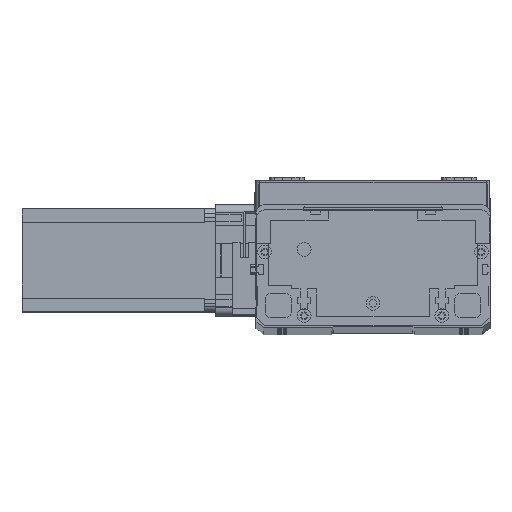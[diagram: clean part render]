
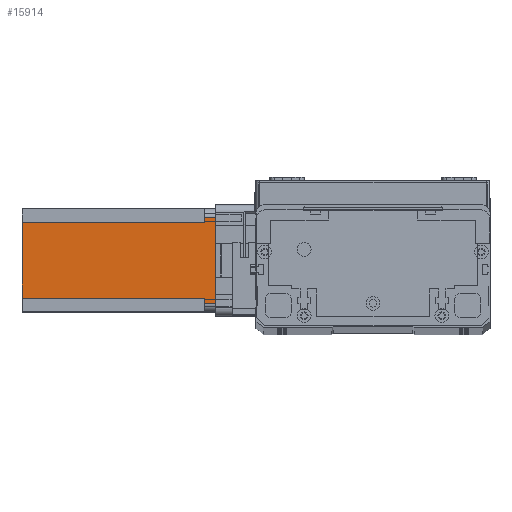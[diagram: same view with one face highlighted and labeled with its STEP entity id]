
A CAD part, top view. The second image highlights one B-rep face of the part: STEP entity #15914.
In plain terms, the highlighted planar face has unit normal (0, 0, 1) as drawn and (0, -1, 0) by its records, which use the part's own axes.
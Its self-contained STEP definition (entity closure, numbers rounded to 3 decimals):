
#1105 = LINE ( 'NONE', #11759, #16703 ) ;
#1232 = EDGE_CURVE ( 'NONE', #13342, #24200, #9544, .T. ) ;
#1419 = EDGE_CURVE ( 'NONE', #13342, #27057, #26409, .T. ) ;
#1448 = LINE ( 'NONE', #20097, #24430 ) ;
#2130 = DIRECTION ( 'NONE',  ( 0., 0., -1. ) ) ;
#2291 = ORIENTED_EDGE ( 'NONE', *, *, #1419, .F. ) ;
#2426 = CARTESIAN_POINT ( 'NONE',  ( 52., 0., -112.5 ) ) ;
#2931 = ORIENTED_EDGE ( 'NONE', *, *, #16758, .T. ) ;
#3071 = CARTESIAN_POINT ( 'NONE',  ( 52., 0., -6.5 ) ) ;
#3281 = CARTESIAN_POINT ( 'NONE',  ( 0., 0., 0. ) ) ;
#4302 = DIRECTION ( 'NONE',  ( 0., 0., 1. ) ) ;
#4587 = LINE ( 'NONE', #16408, #15233 ) ;
#4654 = CARTESIAN_POINT ( 'NONE',  ( 8., 0., -112.5 ) ) ;
#6232 = EDGE_CURVE ( 'NONE', #12944, #24200, #12554, .T. ) ;
#6739 = ORIENTED_EDGE ( 'NONE', *, *, #19864, .T. ) ;
#7171 = ORIENTED_EDGE ( 'NONE', *, *, #9782, .T. ) ;
#7768 = DIRECTION ( 'NONE',  ( 0., 0., 1. ) ) ;
#8240 = EDGE_CURVE ( 'NONE', #15478, #12944, #25050, .T. ) ;
#8934 = ORIENTED_EDGE ( 'NONE', *, *, #8240, .F. ) ;
#9544 = LINE ( 'NONE', #24599, #20732 ) ;
#9782 = EDGE_CURVE ( 'NONE', #26940, #20593, #1105, .T. ) ;
#9848 = VECTOR ( 'NONE', #2130, 1000. ) ;
#9854 = ORIENTED_EDGE ( 'NONE', *, *, #6232, .F. ) ;
#10774 = DIRECTION ( 'NONE',  ( 0., 0., -1. ) ) ;
#11759 = CARTESIAN_POINT ( 'NONE',  ( 52., 0., -6.5 ) ) ;
#11923 = CARTESIAN_POINT ( 'NONE',  ( 8., 0., -6.5 ) ) ;
#12484 = CARTESIAN_POINT ( 'NONE',  ( 55., 0., -6.5 ) ) ;
#12554 = LINE ( 'NONE', #26899, #23579 ) ;
#12796 = PLANE ( 'NONE',  #26673 ) ;
#12944 = VERTEX_POINT ( 'NONE', #11923 ) ;
#13342 = VERTEX_POINT ( 'NONE', #20872 ) ;
#13477 = LINE ( 'NONE', #25122, #9848 ) ;
#15233 = VECTOR ( 'NONE', #24656, 1000. ) ;
#15478 = VERTEX_POINT ( 'NONE', #20341 ) ;
#15914 = ADVANCED_FACE ( 'NONE', ( #22971 ), #12796, .T. ) ;
#16174 = VECTOR ( 'NONE', #20234, 1000. ) ;
#16408 = CARTESIAN_POINT ( 'NONE',  ( 0., 0., -112.5 ) ) ;
#16703 = VECTOR ( 'NONE', #22139, 1000. ) ;
#16758 = EDGE_CURVE ( 'NONE', #20593, #27057, #1448, .T. ) ;
#16917 = CARTESIAN_POINT ( 'NONE',  ( 5., 0., -6.5 ) ) ;
#18190 = DIRECTION ( 'NONE',  ( 0., 0., -1. ) ) ;
#19128 = CARTESIAN_POINT ( 'NONE',  ( 0., 0., -112.5 ) ) ;
#19864 = EDGE_CURVE ( 'NONE', #15478, #20108, #4587, .T. ) ;
#20097 = CARTESIAN_POINT ( 'NONE',  ( 55., 0., -112.5 ) ) ;
#20108 = VERTEX_POINT ( 'NONE', #2426 ) ;
#20234 = DIRECTION ( 'NONE',  ( 1., 0., 0. ) ) ;
#20341 = CARTESIAN_POINT ( 'NONE',  ( 8., 0., -112.5 ) ) ;
#20526 = ORIENTED_EDGE ( 'NONE', *, *, #22182, .F. ) ;
#20593 = VERTEX_POINT ( 'NONE', #12484 ) ;
#20732 = VECTOR ( 'NONE', #18190, 1000. ) ;
#20872 = CARTESIAN_POINT ( 'NONE',  ( 5., 0., 0. ) ) ;
#21377 = ORIENTED_EDGE ( 'NONE', *, *, #1232, .T. ) ;
#22139 = DIRECTION ( 'NONE',  ( 1., 0., 0. ) ) ;
#22182 = EDGE_CURVE ( 'NONE', #26940, #20108, #13477, .T. ) ;
#22971 = FACE_OUTER_BOUND ( 'NONE', #26387, .T. ) ;
#23208 = DIRECTION ( 'NONE',  ( 0., -1., 0. ) ) ;
#23579 = VECTOR ( 'NONE', #26006, 1000. ) ;
#24200 = VERTEX_POINT ( 'NONE', #16917 ) ;
#24430 = VECTOR ( 'NONE', #7768, 1000. ) ;
#24436 = VECTOR ( 'NONE', #4302, 1000. ) ;
#24599 = CARTESIAN_POINT ( 'NONE',  ( 5., 0., -112.5 ) ) ;
#24656 = DIRECTION ( 'NONE',  ( 1., 0., 0. ) ) ;
#25050 = LINE ( 'NONE', #4654, #24436 ) ;
#25122 = CARTESIAN_POINT ( 'NONE',  ( 52., 0., -112.5 ) ) ;
#26006 = DIRECTION ( 'NONE',  ( -1., 0., 0. ) ) ;
#26378 = CARTESIAN_POINT ( 'NONE',  ( 55., 0., 0. ) ) ;
#26387 = EDGE_LOOP ( 'NONE', ( #7171, #2931, #2291, #21377, #9854, #8934, #6739, #20526 ) ) ;
#26409 = LINE ( 'NONE', #3281, #16174 ) ;
#26673 = AXIS2_PLACEMENT_3D ( 'NONE', #19128, #23208, #10774 ) ;
#26899 = CARTESIAN_POINT ( 'NONE',  ( 8., 0., -6.5 ) ) ;
#26940 = VERTEX_POINT ( 'NONE', #3071 ) ;
#27057 = VERTEX_POINT ( 'NONE', #26378 ) ;
